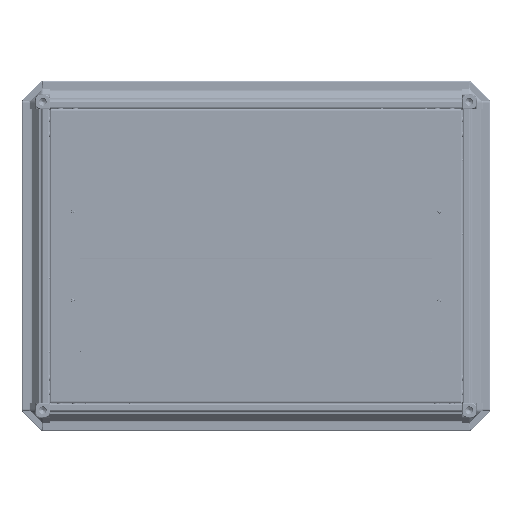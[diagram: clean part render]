
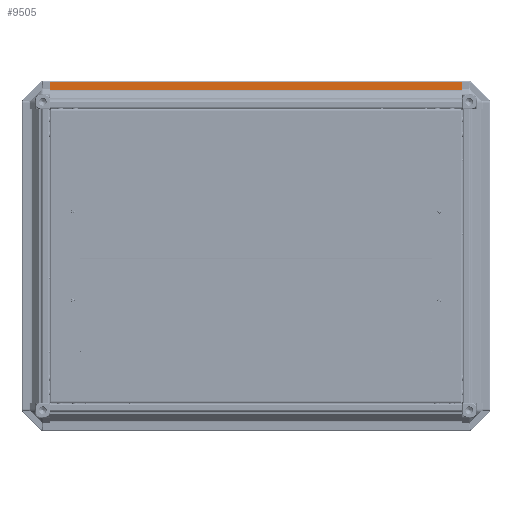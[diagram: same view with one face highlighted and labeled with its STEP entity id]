
A CAD part, front view. The second image highlights one B-rep face of the part: STEP entity #9505.
In plain terms, the highlighted planar face has unit normal (0, -1, 0) as drawn and (-0.707, -0.707, 0) by its records, which use the part's own axes.
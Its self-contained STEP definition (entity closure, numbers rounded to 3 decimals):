
#1083 = CARTESIAN_POINT ( 'NONE',  ( 22.386, -7.932, 698. ) ) ;
#3285 = VERTEX_POINT ( 'NONE', #39694 ) ;
#4709 = LINE ( 'NONE', #55681, #56368 ) ;
#4863 = VECTOR ( 'NONE', #54266, 1000. ) ;
#9186 = DIRECTION ( 'NONE',  ( 0.707, 0.707, 0. ) ) ;
#9505 = ADVANCED_FACE ( 'NONE', ( #58849 ), #53927, .F. ) ;
#10492 = CARTESIAN_POINT ( 'NONE',  ( 12.747, 1.707, 698. ) ) ;
#12977 = CARTESIAN_POINT ( 'NONE',  ( 22.386, -7.932, 0. ) ) ;
#13521 = ORIENTED_EDGE ( 'NONE', *, *, #43779, .F. ) ;
#13588 = EDGE_CURVE ( 'NONE', #3285, #28560, #39121, .T. ) ;
#14306 = CARTESIAN_POINT ( 'NONE',  ( 12.747, 1.707, 0. ) ) ;
#17167 = VECTOR ( 'NONE', #34993, 1000. ) ;
#18397 = CARTESIAN_POINT ( 'NONE',  ( 12.747, 1.707, 698. ) ) ;
#19846 = DIRECTION ( 'NONE',  ( 0.707, -0.707, 0. ) ) ;
#23935 = CARTESIAN_POINT ( 'NONE',  ( 22.386, -7.932, 698. ) ) ;
#25779 = DIRECTION ( 'NONE',  ( 0., 0., -1. ) ) ;
#25941 = ORIENTED_EDGE ( 'NONE', *, *, #36444, .F. ) ;
#28560 = VERTEX_POINT ( 'NONE', #35688 ) ;
#29103 = LINE ( 'NONE', #14306, #17167 ) ;
#30608 = ORIENTED_EDGE ( 'NONE', *, *, #44456, .T. ) ;
#32446 = AXIS2_PLACEMENT_3D ( 'NONE', #18397, #9186, #39102 ) ;
#34343 = ORIENTED_EDGE ( 'NONE', *, *, #13588, .T. ) ;
#34993 = DIRECTION ( 'NONE',  ( 0.707, -0.707, 0. ) ) ;
#35688 = CARTESIAN_POINT ( 'NONE',  ( 12.747, 1.707, 0. ) ) ;
#36444 = EDGE_CURVE ( 'NONE', #3285, #45652, #4709, .T. ) ;
#39102 = DIRECTION ( 'NONE',  ( -0.707, 0.707, 0. ) ) ;
#39121 = LINE ( 'NONE', #10492, #4863 ) ;
#39131 = VECTOR ( 'NONE', #25779, 1000. ) ;
#39387 = VERTEX_POINT ( 'NONE', #12977 ) ;
#39694 = CARTESIAN_POINT ( 'NONE',  ( 12.747, 1.707, 698. ) ) ;
#43779 = EDGE_CURVE ( 'NONE', #45652, #39387, #51435, .T. ) ;
#44456 = EDGE_CURVE ( 'NONE', #28560, #39387, #29103, .T. ) ;
#45652 = VERTEX_POINT ( 'NONE', #23935 ) ;
#46799 = EDGE_LOOP ( 'NONE', ( #30608, #13521, #25941, #34343 ) ) ;
#51435 = LINE ( 'NONE', #1083, #39131 ) ;
#53927 = PLANE ( 'NONE',  #32446 ) ;
#54266 = DIRECTION ( 'NONE',  ( 0., 0., -1. ) ) ;
#55681 = CARTESIAN_POINT ( 'NONE',  ( 12.747, 1.707, 698. ) ) ;
#56368 = VECTOR ( 'NONE', #19846, 1000. ) ;
#58849 = FACE_OUTER_BOUND ( 'NONE', #46799, .T. ) ;
